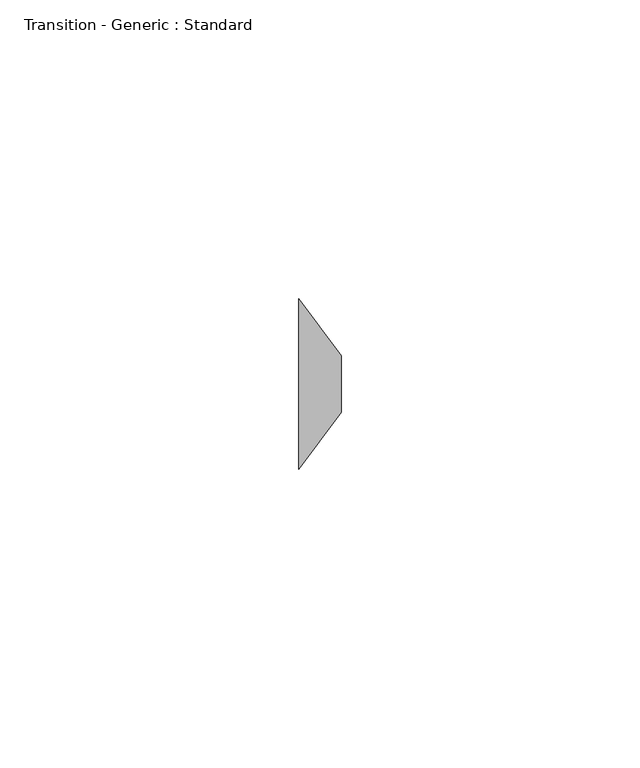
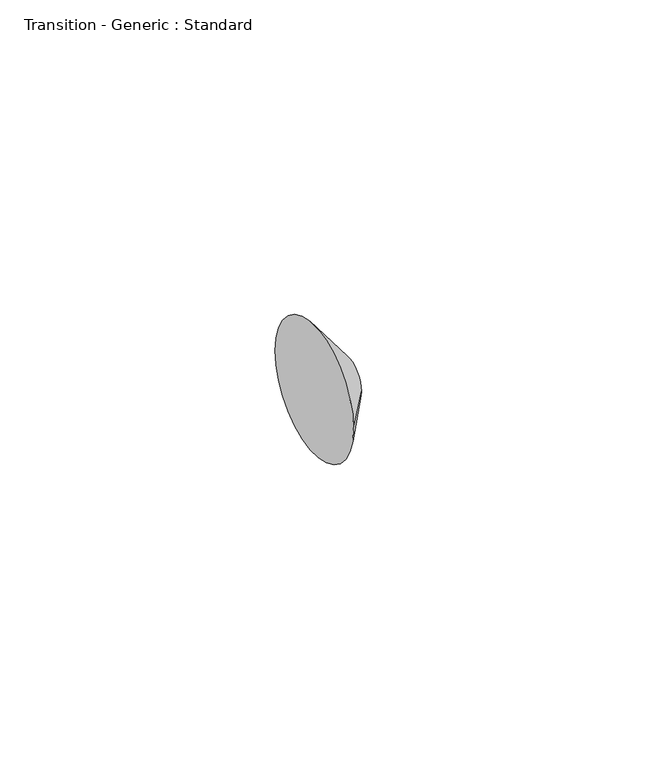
"""IFC4 building model written with IfcOpenShell, lengths in millimetres: pipe fitting geometry, Transition - Generic : Standard."""

from ifc_helpers import new_model, si_unit, frame, origin, place, context, project, spatial, polyline, circle_curve, source, transform, mapped, element, save
from ifc_brep_helpers import plane_surface, revolved_surface, advanced_brep


def transition_generic_standard_6299f23b(model_context):
    return source(origin(), model_context, "Body", "AdvancedBrep", [
        advanced_brep(
        [(7.14375, -4.7625, 0.0), (7.14375, 4.7625, 0.0), (0.0, -14.2875, 0.0), (0.0, 14.2875, 0.0)],
        [
            (0, 1, circle_curve(frame((7.14375, 0.0, 0.0), z_axis=(1.0, 0.0, 0.0), x_axis=(0.0, -1.0, 0.0)), 4.7625)),
            (1, 0, circle_curve(frame((7.14375, 0.0, 0.0), z_axis=(1.0, 0.0, 0.0), x_axis=(0.0, 1.0, 0.0)), 4.7625)),
            (2, 3, circle_curve(frame((0.0, 0.0, 0.0), z_axis=(-1.0, 0.0, 0.0), x_axis=(0.0, 1.0, 0.0)), 14.2875)),
            (3, 2, circle_curve(frame((0.0, 0.0, 0.0), z_axis=(-1.0, 0.0, 0.0), x_axis=(0.0, -1.0, 0.0)), 14.2875)),
            (3, 1),
            (0, 2),
        ],
        [
            plane_surface(frame((7.14375, 0.0, 0.0), z_axis=(1.0, 0.0, 0.0), x_axis=(0.0, 0.0, -1.0))),
            plane_surface(frame((0.0, 0.0, 0.0), z_axis=(-1.0, 0.0, 0.0), x_axis=(0.0, 0.0, -1.0))),
            revolved_surface(polyline([(7.14375, -4.762499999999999, 0.0), (0.0, -14.2875, 0.0)]), (10.715625, 0.0, 0.0), (-1.0, 0.0, 0.0)),
            revolved_surface(polyline([(7.14375, 4.762499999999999, 0.0), (0.0, 14.2875, 0.0)]), (10.715625, 0.0, 0.0), (-1.0, 0.0, 0.0)),
        ],
        [
            (0, [[1, 2]]),
            (1, [[3, 4]]),
            (2, [[-4, 5, -1, 6]]),
            (3, [[-3, -6, -2, -5]]),
        ],
    ),
    ])


if __name__ == "__main__":
    model = new_model("IFC4")
    model_context = context("Model", 3, world=origin())
    ifc_project = project(units=[si_unit("LENGTHUNIT", "METRE", prefix="MILLI")], contexts=[model_context])
    site = spatial("IfcSite", under=ifc_project)
    building = spatial("IfcBuilding", under=site)
    placement = place(None, origin())
    transition_generic_standard_shape = transition_generic_standard_6299f23b(model_context)
    element("IfcPipeFitting", 1, ObjectType="Transition - Generic : Standard", at=placement, inside=building, context=model_context, shape_type="MappedRepresentation", body=[
        mapped(transition_generic_standard_shape, transform((0.0, 0.0, 0.0), x_axis=(1.0, 0.0, 0.0), y_axis=(0.0, 1.0, 0.0), z_axis=(0.0, 0.0, 1.0))),
    ])
    save(model, "model.ifc")
